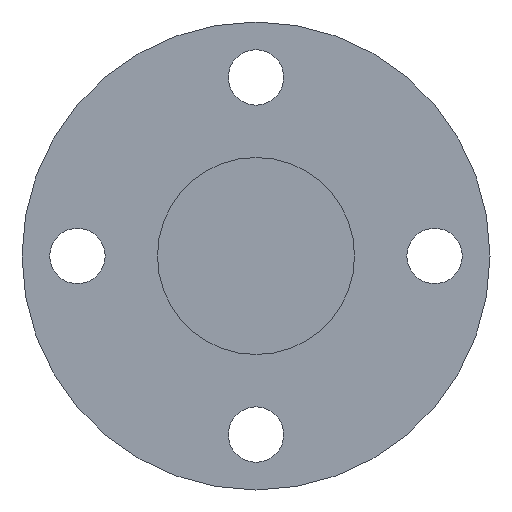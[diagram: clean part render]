
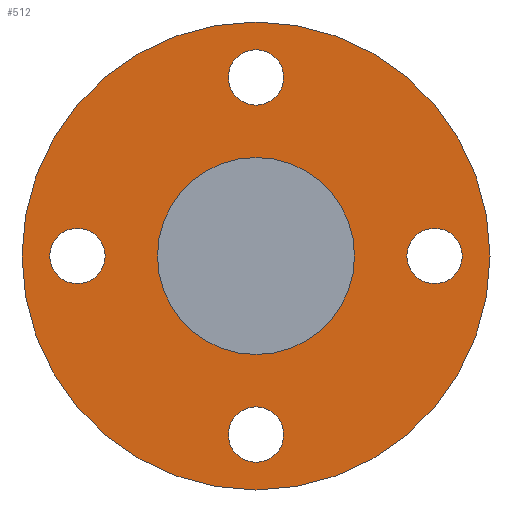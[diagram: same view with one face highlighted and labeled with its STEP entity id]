
A CAD part, left-side view. The second image highlights one B-rep face of the part: STEP entity #512.
In plain terms, the highlighted planar face has unit normal (-1, 0, 0).
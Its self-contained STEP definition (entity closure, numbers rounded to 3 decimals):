
#401=CARTESIAN_POINT('',(120.0,29.,-4.5));
#402=VERTEX_POINT('',#401);
#403=CARTESIAN_POINT('',(120.0,29.,0.));
#404=DIRECTION('',(1.0,0.0,0.0));
#405=DIRECTION('',(0.0,0.0,-1.0));
#406=AXIS2_PLACEMENT_3D('',#403,#404,#405);
#407=CIRCLE('',#406,4.5);
#408=EDGE_CURVE('',#402,#402,#407,.T.);
#421=CARTESIAN_POINT('',(120.0,-4.5,-29.));
#422=VERTEX_POINT('',#421);
#423=CARTESIAN_POINT('',(120.0,0.,-29.));
#424=DIRECTION('',(1.0,0.0,0.0));
#425=DIRECTION('',(0.0,-1.0,0.0));
#426=AXIS2_PLACEMENT_3D('',#423,#424,#425);
#427=CIRCLE('',#426,4.5);
#428=EDGE_CURVE('',#422,#422,#427,.T.);
#441=CARTESIAN_POINT('',(120.0,-29.,4.5));
#442=VERTEX_POINT('',#441);
#443=CARTESIAN_POINT('',(120.0,-29.,0.));
#444=DIRECTION('',(1.0,0.0,0.0));
#445=DIRECTION('',(0.0,0.0,1.0));
#446=AXIS2_PLACEMENT_3D('',#443,#444,#445);
#447=CIRCLE('',#446,4.5);
#448=EDGE_CURVE('',#442,#442,#447,.T.);
#461=CARTESIAN_POINT('',(120.0,4.5,29.));
#462=VERTEX_POINT('',#461);
#463=CARTESIAN_POINT('',(120.0,0.0,29.));
#464=DIRECTION('',(1.0,0.0,0.0));
#465=DIRECTION('',(0.0,1.0,0.0));
#466=AXIS2_PLACEMENT_3D('',#463,#464,#465);
#467=CIRCLE('',#466,4.5);
#468=EDGE_CURVE('',#462,#462,#467,.T.);
#473=CARTESIAN_POINT('',(120.0,0.0,27.));
#474=DIRECTION('',(-1.0,0.0,0.0));
#475=DIRECTION('',(0.0,0.0,1.0));
#476=AXIS2_PLACEMENT_3D('',#473,#474,#475);
#477=PLANE('',#476);
#478=CARTESIAN_POINT('',(120.0,0.0,38.));
#479=VERTEX_POINT('',#478);
#480=CARTESIAN_POINT('',(120.0,0.0,0.0));
#481=DIRECTION('',(-1.0,0.0,0.0));
#482=DIRECTION('',(0.0,0.0,1.0));
#483=AXIS2_PLACEMENT_3D('',#480,#481,#482);
#484=CIRCLE('',#483,38.);
#485=EDGE_CURVE('',#479,#479,#484,.T.);
#486=ORIENTED_EDGE('',*,*,#485,.T.);
#487=EDGE_LOOP('',(#486));
#488=FACE_OUTER_BOUND('',#487,.T.);
#489=ORIENTED_EDGE('',*,*,#408,.T.);
#490=EDGE_LOOP('',(#489));
#491=FACE_BOUND('',#490,.T.);
#492=ORIENTED_EDGE('',*,*,#428,.T.);
#493=EDGE_LOOP('',(#492));
#494=FACE_BOUND('',#493,.T.);
#495=ORIENTED_EDGE('',*,*,#448,.T.);
#496=EDGE_LOOP('',(#495));
#497=FACE_BOUND('',#496,.T.);
#498=ORIENTED_EDGE('',*,*,#468,.T.);
#499=EDGE_LOOP('',(#498));
#500=FACE_BOUND('',#499,.T.);
#501=CARTESIAN_POINT('',(120.0,0.0,16.));
#502=VERTEX_POINT('',#501);
#503=CARTESIAN_POINT('',(120.0,0.0,0.0));
#504=DIRECTION('',(-1.0,0.0,0.0));
#505=DIRECTION('',(0.0,0.0,1.0));
#506=AXIS2_PLACEMENT_3D('',#503,#504,#505);
#507=CIRCLE('',#506,16.);
#508=EDGE_CURVE('',#502,#502,#507,.T.);
#509=ORIENTED_EDGE('',*,*,#508,.F.);
#510=EDGE_LOOP('',(#509));
#511=FACE_BOUND('',#510,.T.);
#512=ADVANCED_FACE('',(#488,#491,#494,#497,#500,#511),#477,.T.);
